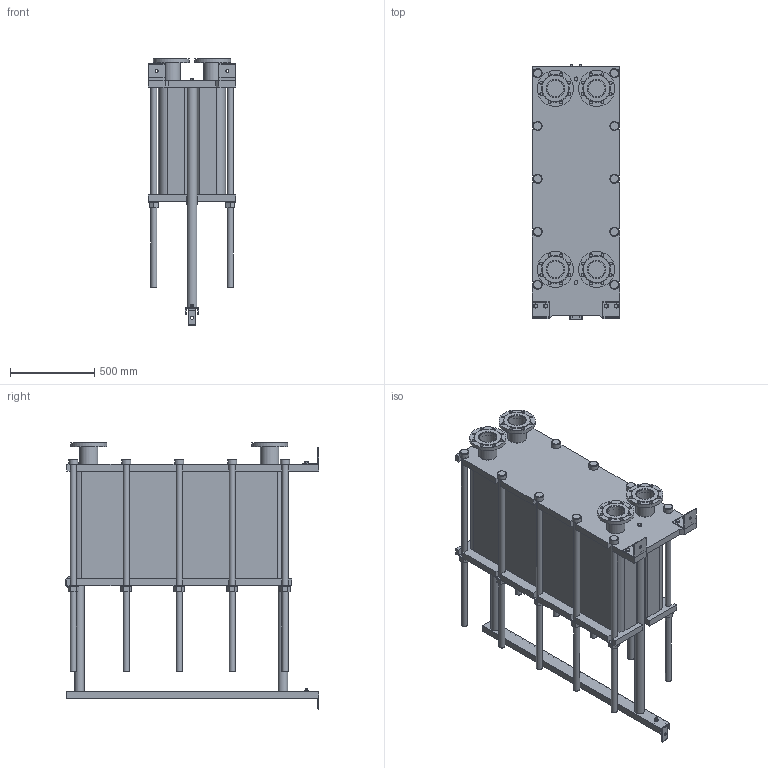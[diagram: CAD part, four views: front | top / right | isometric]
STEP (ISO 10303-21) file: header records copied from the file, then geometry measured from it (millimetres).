
FILE_DESCRIPTION(/* description */ (''),/* implementation_level */ '2;1');
FILE_NAME(/* name */ 'C:\Users\zhuro\Desktop\ENCO\TO\ЭН-04\ЭН-0,5-04-186-1.stp',/* time_stamp */ '2022-06-06T11:01:06+03:00',/* author */ ('zhuro'),/* organization */ (''),/* preprocessor_version */ 'ST-DEVELOPER v18.1',/* originating_system */ 'Autodesk Inventor 2022',/* authorisation */ '');
FILE_SCHEMA (('AUTOMOTIVE_DESIGN { 1 0 10303 214 3 1 1 }'));
Length unit declared in the file: millimetre
Products named in the file (1): ЭН-0,5-04-186-1
Bounding box: 520 x 1510 x 1588 mm (x, y, z)
Volume: 396528834.7 mm3; surface area: 10246410.1 mm2
Topology: 45 solids, 45 shells, 668 faces, 1611 edges, 1048 vertices
Faces by surface type: plane 457, cylinder 166, cone 39, torus 6
Full cylindrical faces by diameter (mm): 8 x4, 10 x2, 16 x8, 18 x35, 36 x25, 40 x2, 42 x1, 45 x4, 54 x10, 57 x2, 60 x10, 68 x2, 100 x4, 110 x8, 215 x4
Entity records: 23607 total; most frequent: CARTESIAN_POINT 7348, DIRECTION 3371, ORIENTED_EDGE 3142, EDGE_CURVE 1571, AXIS2_PLACEMENT_3D 1199, VERTEX_POINT 1044, LINE 973, VECTOR 973
